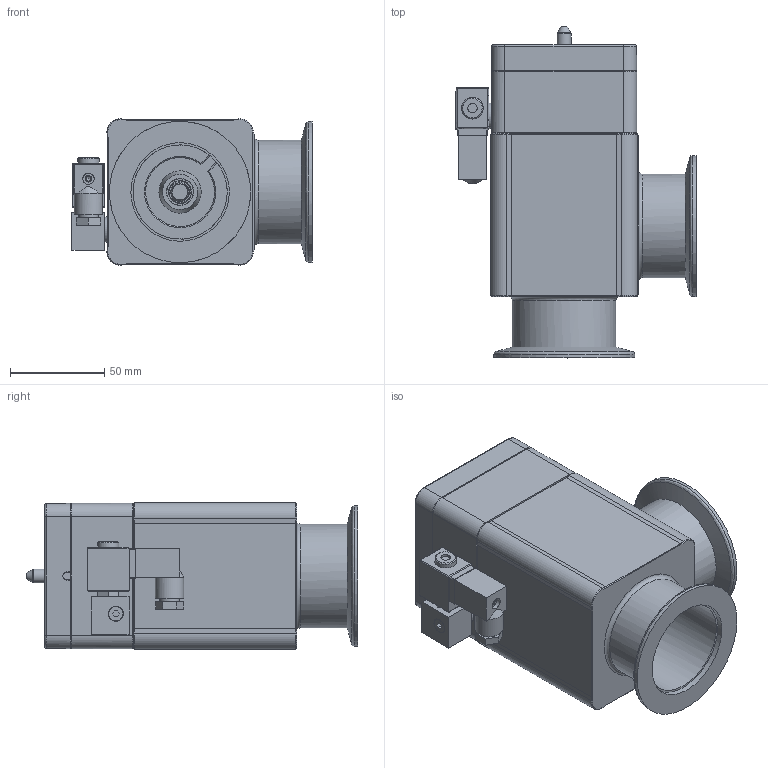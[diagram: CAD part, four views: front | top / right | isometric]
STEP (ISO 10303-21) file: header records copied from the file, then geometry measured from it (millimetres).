
FILE_DESCRIPTION((''),'2;1');
FILE_NAME('O:\MT\MT\Systeme\Cad\Datenexporte\www_vat_ch\256709.stp','2005-10-24T10:32:23',('User'),('SDRC'),'I-DEAS Master Series 9','UNIX','Yes');
FILE_SCHEMA(('CONFIG_CONTROL_DESIGN'));
Length unit declared in the file: millimetre
Assembly tree (15 placements, depth 0):
Bounding box: 127.35 x 176 x 77.59 mm (x, y, z)
Volume: 319820.7 mm3; surface area: 165282.2 mm2
Topology: 19 solids, 22 shells, 698 faces, 1657 edges, 1071 vertices
Faces by surface type: bspline 698
Entity records: 21474 total; most frequent: CARTESIAN_POINT 10852, ORIENTED_EDGE 2960, EDGE_CURVE 1480, VERTEX_POINT 943, EDGE_LOOP 722, FACE_OUTER_BOUND 623, ADVANCED_FACE 623, B_SPLINE_CURVE_WITH_KNOTS 542
